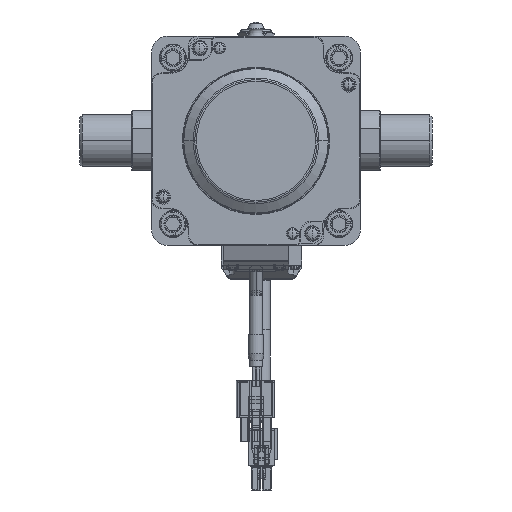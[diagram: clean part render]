
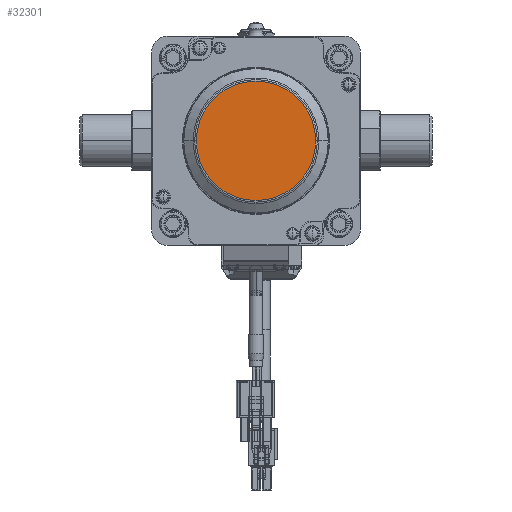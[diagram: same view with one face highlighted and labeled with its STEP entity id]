
A CAD part, front view. The second image highlights one B-rep face of the part: STEP entity #32301.
In plain terms, the highlighted planar face has unit normal (0, -1, 0) as drawn and (-1, 0, 0) by its records, which use the part's own axes.
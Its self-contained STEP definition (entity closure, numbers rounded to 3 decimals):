
#25282=CARTESIAN_POINT('',(-91.9,0.,0.));
#25283=DIRECTION('',(-1.,0.,0.));
#25284=DIRECTION('',(0.,0.,-1.));
#25285=AXIS2_PLACEMENT_3D('',#25282,#25283,#25284);
#25287=CARTESIAN_POINT('',(-91.9,0.,0.));
#25288=DIRECTION('',(-1.,0.,0.));
#25289=DIRECTION('',(0.,0.,1.));
#25290=AXIS2_PLACEMENT_3D('',#25287,#25288,#25289);
#27114=CARTESIAN_POINT('',(-91.9,0.,-22.84));
#27116=VERTEX_POINT('',#27114);
#27120=CARTESIAN_POINT('',(-91.9,0.,22.84));
#27121=VERTEX_POINT('',#27120);
#32291=CARTESIAN_POINT('',(-91.9,-22.,36.));
#32292=DIRECTION('',(1.,0.,0.));
#32293=DIRECTION('',(0.,0.,-1.));
#32294=AXIS2_PLACEMENT_3D('',#32291,#32292,#32293);
#32295=PLANE('',#32294);
#32296=ORIENTED_EDGE('',*,*,#32281,.F.);
#32298=ORIENTED_EDGE('',*,*,#32297,.F.);
#32299=EDGE_LOOP('',(#32296,#32298));
#32300=FACE_OUTER_BOUND('',#32299,.F.);
#32301=ADVANCED_FACE('',(#32300),#32295,.F.);
#25286=CIRCLE('',#25285,22.84);
#25291=CIRCLE('',#25290,22.84);
#32281=EDGE_CURVE('',#27116,#27121,#25286,.T.);
#32297=EDGE_CURVE('',#27121,#27116,#25291,.T.);
